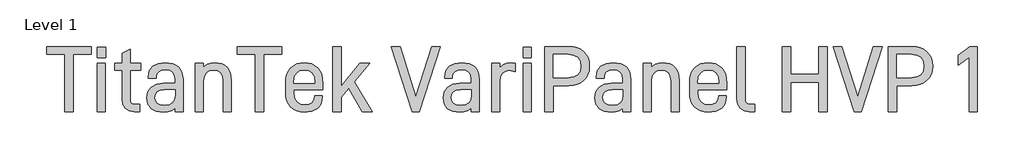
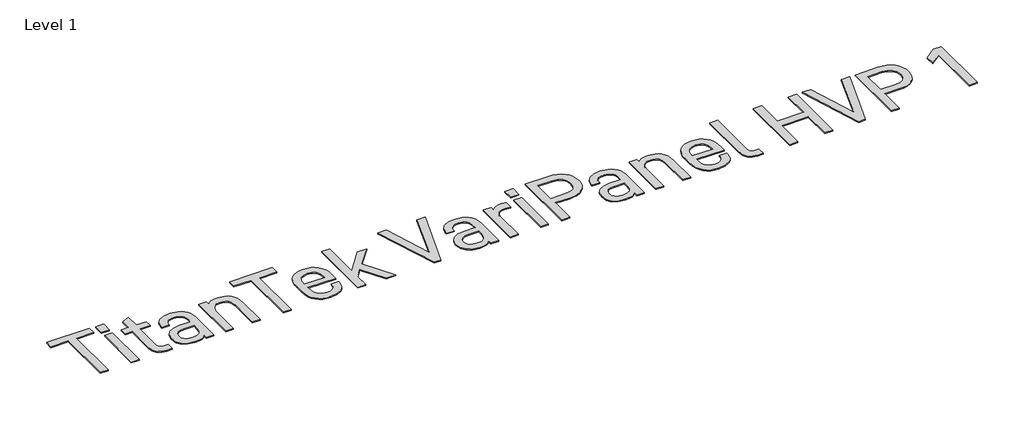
# One storey, part 3 of 9: 1 proxy.
"""IFC4 building model written with IfcOpenShell, lengths in millimetres."""

from ifc_helpers import new_model, si_unit, origin, origin_with_axes, place, context, project, spatial, polyline, outline, extrude, element, save

model = new_model("IFC4")

# Units and contexts
model_context = context("Model", 3, world=origin())
ifc_project = project(units=[si_unit("LENGTHUNIT", "METRE", prefix="MILLI")], contexts=[model_context])

# Site, building, storey
site = spatial("IfcSite", under=ifc_project)
building = spatial("IfcBuilding", under=site)
storey = spatial("IfcBuildingStorey", under=building, Name="Level 1", Elevation=0.0)

# Proxy
placement = place(None, origin())
element("IfcBuildingElementProxy", 1, Name="600mm Arial 2", ObjectType="600mm Arial 2", at=placement, inside=storey, context=model_context, shape_type="SweptSolid", body=[
    extrude(outline(polyline([(-8638.9924556, -7779.5871657), (-8638.9924556, -8047.0126498), (-8678.4439015, -8047.0126498), (-8678.4439015, -7779.5871657), (-8762.8787304, -7779.5871657), (-8762.8787304, -7742.6833224), (-8554.5576267, -7742.6833224), (-8554.5576267, -7779.5871657), (-8638.9924556, -7779.5871657)])), origin_with_axes(), (0.0, 0.0, 1.0), 5.0),
    extrude(outline(polyline([(-8487.1553408, -7746.9778525), (-8487.1553408, -7794.1448949), (-8526.6067867, -7794.1448949), (-8526.6067867, -7746.9778525), (-8487.1553408, -7746.9778525)])), origin_with_axes(), (0.0, 0.0, 1.0), 5.0),
    extrude(outline(polyline([(-8488.0288046, -7821.1494824), (-8488.0288046, -8047.0126498), (-8525.733323, -8047.0126498), (-8525.733323, -7821.1494824), (-8488.0288046, -7821.1494824)])), origin_with_axes(), (0.0, 0.0, 1.0), 5.0),
    extrude(outline(polyline([(-8372.294858, -7987.398749), (-8370.8208879, -7998.4808203), (-8366.3989777, -8006.3965855), (-8359.0291273, -8011.1460446), (-8348.7113368, -8012.7291977), (-8327.2386864, -8012.7291977), (-8327.2386864, -8047.0126498), (-8353.3698101, -8047.0126498), (-8377.1535001, -8043.0456686), (-8395.3688587, -8031.144725), (-8406.6692959, -8012.6018175), (-8410.4361083, -7988.7089446), (-8410.4361083, -7852.8853319), (-8444.2828285, -7852.8853319), (-8444.2828285, -7821.1494824), (-8410.4361083, -7821.1494824), (-8410.4361083, -7773.1089763), (-8372.294858, -7755.1301808), (-8372.294858, -7821.1494824), (-8323.3808881, -7821.1494824), (-8323.3808881, -7852.8853319), (-8372.294858, -7852.8853319), (-8372.294858, -7987.398749)])), origin_with_axes(), (0.0, 0.0, 1.0), 5.0),
    extrude(outline(polyline([(-8146.8684225, -7837.8908709), (-8137.2830677, -7848.6590411), (-8130.4363858, -7861.7473495), (-8124.9590402, -7894.8843804), (-8124.9590402, -8047.0126498), (-8162.2996154, -8047.0126498), (-8162.2996154, -8030.7079931), (-8180.7151427, -8043.1548515), (-8197.7476858, -8047.9589022), (-8217.9829293, -8049.5602524), (-8250.0281305, -8045.2839194), (-8274.1029751, -8032.4549206), (-8289.2248162, -8010.6729184), (-8294.2654299, -7981.4300801), (-8289.1338304, -7953.7885919), (-8273.7390318, -7932.5888988), (-8249.063681, -7919.3777597), (-8217.1094655, -7914.9740466), (-8162.7363472, -7914.9740466), (-8162.7363472, -7894.4476485), (-8165.6296959, -7875.558995), (-8174.3097419, -7861.8383353), (-8188.2305704, -7853.8133871), (-8207.7197302, -7851.1384044), (-8226.2262434, -7853.3948524), (-8239.819523, -7860.1641964), (-8248.1720201, -7870.5183813), (-8250.9561857, -7884.5483927), (-8250.9561857, -7890.1531184), (-8287.8600291, -7890.1531184), (-8287.8600291, -7883.7477176), (-8282.4008807, -7856.7067358), (-8266.0234354, -7835.7072115), (-8240.8203668, -7822.5506638), (-8208.1564621, -7818.1651479), (-8172.6719974, -7823.0965787), (-8158.5600987, -7829.2608671), (-8146.8684225, -7837.8908709)]), holes=[polyline([(-8174.6736851, -8005.4503331), (-8165.7206817, -7990.5468579), (-8162.7363472, -7968.9832216), (-8162.7363472, -7945.0357572), (-8212.8149354, -7945.0357572), (-8231.9538, -7947.2831067), (-8245.6244175, -7954.025155), (-8253.826788, -7965.2619021), (-8256.5609115, -7980.9933482), (-8253.8540837, -7996.9477094), (-8245.7336004, -8008.3436818), (-8232.1994616, -8015.1812652), (-8213.2516673, -8017.4604596), (-8190.104878, -8014.457928), (-8174.6736851, -8005.4503331)])]), origin_with_axes(), (0.0, 0.0, 1.0), 5.0),
    extrude(outline(polyline([(-8030.6977441, -7821.1494824), (-8030.6977441, -7839.5650097), (-8012.2822167, -7826.3174762), (-7995.1222935, -7820.5307789), (-7976.2518372, -7818.6018798), (-7943.9154813, -7824.0610282), (-7930.7907787, -7830.8849637), (-7919.6950595, -7840.4384735), (-7911.0650557, -7852.0209667), (-7904.9007673, -7865.8053165), (-7899.9693365, -7899.9795856), (-7899.9693365, -8047.0126498), (-7937.673855, -8047.0126498), (-7937.673855, -7904.2741157), (-7940.6763866, -7881.8916072), (-7949.6839815, -7866.1328654), (-7964.3781893, -7856.5247642), (-7983.567096, -7853.3220637), (-8002.7378056, -7856.5247642), (-8017.3774219, -7866.1328654), (-8027.0401146, -7882.546705), (-8030.2610122, -7904.2741157), (-8030.2610122, -8047.0126498), (-8067.9655306, -8047.0126498), (-8067.9655306, -7821.1494824), (-8030.6977441, -7821.1494824)])), origin_with_axes(), (0.0, 0.0, 1.0), 5.0),
    extrude(outline(polyline([(-7749.2240514, -7779.5871657), (-7749.2240514, -8047.0126498), (-7788.6754974, -8047.0126498), (-7788.6754974, -7779.5871657), (-7873.1103263, -7779.5871657), (-7873.1103263, -7742.6833224), (-7664.7892225, -7742.6833224), (-7664.7892225, -7779.5871657), (-7749.2240514, -7779.5871657)])), origin_with_axes(), (0.0, 0.0, 1.0), 5.0),
    extrude(outline(polyline([(-7608.5235994, -7952.7513537), (-7605.1025331, -7982.1670651), (-7594.8393341, -8001.1194087), (-7578.3527058, -8011.4099035), (-7556.2613519, -8014.8400684), (-7536.990558, -8012.2742686), (-7522.8513635, -8004.5768694), (-7514.1713175, -7992.8033059), (-7511.2779689, -7977.13555), (-7511.2779689, -7971.6036129), (-7474.3741256, -7971.6036129), (-7474.3741256, -7978.0090137), (-7480.0516399, -8007.1608663), (-7487.1485329, -8019.471246), (-7497.084183, -8030.2712613), (-7523.7976159, -8044.7380046), (-7558.3722226, -8049.5602524), (-7577.3222916, -8048.0612612), (-7594.2843206, -8043.5642877), (-7609.2583098, -8036.0693318), (-7622.2442591, -8025.5763936), (-7632.7371973, -8011.9762901), (-7640.2321532, -7995.1598383), (-7644.7291267, -7975.1270383), (-7646.2281179, -7951.8778899), (-7646.2281179, -7914.1733715), (-7644.7314014, -7891.4678633), (-7640.2412518, -7871.8285769), (-7632.7576691, -7855.2555121), (-7622.2806535, -7841.7486691), (-7609.4971476, -7831.4308786), (-7594.7301511, -7824.0610282), (-7577.979664, -7819.639118), (-7559.2456864, -7818.1651479), (-7540.8438069, -7819.639118), (-7524.2161506, -7824.0610282), (-7509.3627176, -7831.4308786), (-7496.2835079, -7841.7486691), (-7485.9657174, -7855.0917377), (-7478.595867, -7871.610211), (-7474.1739568, -7891.3040889), (-7472.6999867, -7914.1733715), (-7472.6999867, -7944.1622935), (-7608.5235994, -7944.1622935), (-7608.5235994, -7952.7513537)]), holes=[polyline([(-7595.2760659, -7866.5695973), (-7605.2117161, -7884.69397), (-7608.5235994, -7913.2999077), (-7510.4045051, -7913.7366396), (-7510.4045051, -7910.3155733), (-7513.6254027, -7883.0744226), (-7523.2880954, -7865.6961335), (-7538.9012599, -7856.4155812), (-7559.2456864, -7853.3220637), (-7579.60831, -7856.6339471), (-7595.2760659, -7866.5695973)])]), origin_with_axes(), (0.0, 0.0, 1.0), 5.0),
    extrude(outline(polyline([(-7387.391694, -7979.6831526), (-7387.391694, -8047.0126498), (-7425.0962125, -8047.0126498), (-7425.0962125, -7742.6833224), (-7387.391694, -7742.6833224), (-7387.391694, -7929.1678325), (-7299.0990669, -7821.1494824), (-7252.3687564, -7821.1494824), (-7326.5403863, -7908.1319139), (-7241.6688255, -8047.0126498), (-7287.5256722, -8047.0126498), (-7351.7980463, -7937.3201608), (-7387.391694, -7979.6831526)])), origin_with_axes(), (0.0, 0.0, 1.0), 5.0),
    extrude(outline(polyline([(-6964.5624516, -7742.6833224), (-6923.0001349, -7742.6833224), (-7022.4294248, -8047.0126498), (-7054.1652743, -8047.0126498), (-7153.1578324, -7742.6833224), (-7111.5955157, -7742.6833224), (-7037.8606177, -7977.13555), (-6964.5624516, -7742.6833224)])), origin_with_axes(), (0.0, 0.0, 1.0), 5.0),
    extrude(outline(polyline([(-6763.3018464, -7837.8908709), (-6753.7164916, -7848.6590411), (-6746.8698097, -7861.7473495), (-6741.3924641, -7894.8843804), (-6741.3924641, -8047.0126498), (-6778.7330393, -8047.0126498), (-6778.7330393, -8030.7079931), (-6797.1485666, -8043.1548515), (-6814.1811097, -8047.9589022), (-6834.4163532, -8049.5602524), (-6866.4615544, -8045.2839194), (-6890.536399, -8032.4549206), (-6905.6582401, -8010.6729184), (-6910.6988538, -7981.4300801), (-6905.5672543, -7953.7885919), (-6890.1724557, -7932.5888988), (-6865.4971049, -7919.3777597), (-6833.5428894, -7914.9740466), (-6779.1697712, -7914.9740466), (-6779.1697712, -7894.4476485), (-6782.0631198, -7875.558995), (-6790.7431658, -7861.8383353), (-6804.6639943, -7853.8133871), (-6824.1531542, -7851.1384044), (-6842.6596673, -7853.3948524), (-6856.2529469, -7860.1641964), (-6864.605444, -7870.5183813), (-6867.3896097, -7884.5483927), (-6867.3896097, -7890.1531184), (-6904.293453, -7890.1531184), (-6904.293453, -7883.7477176), (-6898.8343046, -7856.7067358), (-6882.4568593, -7835.7072115), (-6857.2537908, -7822.5506638), (-6824.589886, -7818.1651479), (-6789.1054213, -7823.0965787), (-6774.9935226, -7829.2608671), (-6763.3018464, -7837.8908709)]), holes=[polyline([(-6791.107109, -8005.4503331), (-6782.1541056, -7990.5468579), (-6779.1697712, -7968.9832216), (-6779.1697712, -7945.0357572), (-6829.2483594, -7945.0357572), (-6848.3872239, -7947.2831067), (-6862.0578414, -7954.025155), (-6870.2602119, -7965.2619021), (-6872.9943354, -7980.9933482), (-6870.2875076, -7996.9477094), (-6862.1670243, -8008.3436818), (-6848.6328855, -8015.1812652), (-6829.6850912, -8017.4604596), (-6806.5383019, -8014.457928), (-6791.107109, -8005.4503331)])]), origin_with_axes(), (0.0, 0.0, 1.0), 5.0),
    extrude(outline(polyline([(-6594.4321886, -7818.1651479), (-6574.2697337, -7820.2760186), (-6574.2697337, -7859.2907327), (-6600.8375894, -7853.686007), (-6619.1712295, -7857.2253549), (-6633.8472402, -7867.8433985), (-6643.4826371, -7884.2481396), (-6646.6944361, -7905.1475794), (-6646.6944361, -8047.0126498), (-6684.3989546, -8047.0126498), (-6684.3989546, -7821.1494824), (-6647.131168, -7821.1494824), (-6647.131168, -7840.8752053), (-6629.5891044, -7826.6814194), (-6613.4846166, -7820.2942158), (-6594.4321886, -7818.1651479)])), origin_with_axes(), (0.0, 0.0, 1.0), 5.0),
    extrude(outline(polyline([(-6497.9872331, -7746.9778525), (-6497.9872331, -7794.1448949), (-6537.438679, -7794.1448949), (-6537.438679, -7746.9778525), (-6497.9872331, -7746.9778525)])), origin_with_axes(), (0.0, 0.0, 1.0), 5.0),
    extrude(outline(polyline([(-6498.8606969, -7821.1494824), (-6498.8606969, -8047.0126498), (-6536.5652153, -8047.0126498), (-6536.5652153, -7821.1494824), (-6498.8606969, -7821.1494824)])), origin_with_axes(), (0.0, 0.0, 1.0), 5.0),
    extrude(outline(polyline([(-6253.6357497, -7766.7035755), (-6242.2033831, -7780.1603763), (-6234.0374069, -7796.073794), (-6229.1378212, -7814.4438284), (-6227.504626, -7835.2704796), (-6229.1651169, -7854.955259), (-6234.1465899, -7872.4472804), (-6242.4490448, -7887.7465438), (-6254.0724816, -7900.8530493), (-6268.1297888, -7911.3619101), (-6284.6073184, -7918.8682391), (-6303.5050706, -7923.3720366), (-6324.8230452, -7924.8733024), (-6395.5008201, -7924.8733024), (-6395.5008201, -8047.0126498), (-6435.3889979, -8047.0126498), (-6435.3889979, -7742.6833224), (-6324.8230452, -7742.6833224), (-6303.6415493, -7744.1845882), (-6284.7165014, -7748.6883857), (-6268.0479016, -7756.1947147), (-6253.6357497, -7766.7035755)]), holes=[polyline([(-6282.3872648, -7874.7219256), (-6271.141419, -7858.4172689), (-6267.3928038, -7835.2704796), (-6271.250602, -7810.6497202), (-6282.8239966, -7793.2714311), (-6301.8946218, -7783.0082321), (-6327.3706478, -7779.5871657), (-6395.5008201, -7779.5871657), (-6395.5008201, -7887.9694591), (-6327.3706478, -7887.9694591), (-6301.130341, -7884.6575757), (-6282.3872648, -7874.7219256)])]), origin_with_axes(), (0.0, 0.0, 1.0), 5.0),
    extrude(outline(polyline([(-6055.2139018, -7837.8908709), (-6045.628547, -7848.6590411), (-6038.781865, -7861.7473495), (-6033.3045194, -7894.8843804), (-6033.3045194, -8047.0126498), (-6070.6450946, -8047.0126498), (-6070.6450946, -8030.7079931), (-6089.060622, -8043.1548515), (-6106.093165, -8047.9589022), (-6126.3284085, -8049.5602524), (-6158.3736098, -8045.2839194), (-6182.4484543, -8032.4549206), (-6197.5702954, -8010.6729184), (-6202.6109091, -7981.4300801), (-6197.4793096, -7953.7885919), (-6182.0845111, -7932.5888988), (-6157.4091602, -7919.3777597), (-6125.4549448, -7914.9740466), (-6071.0818265, -7914.9740466), (-6071.0818265, -7894.4476485), (-6073.9751752, -7875.558995), (-6082.6552212, -7861.8383353), (-6096.5760496, -7853.8133871), (-6116.0652095, -7851.1384044), (-6134.5717226, -7853.3948524), (-6148.1650022, -7860.1641964), (-6156.5174993, -7870.5183813), (-6159.301665, -7884.5483927), (-6159.301665, -7890.1531184), (-6196.2055083, -7890.1531184), (-6196.2055083, -7883.7477176), (-6190.7463599, -7856.7067358), (-6174.3689146, -7835.7072115), (-6149.1658461, -7822.5506638), (-6116.5019414, -7818.1651479), (-6081.0174766, -7823.0965787), (-6066.905578, -7829.2608671), (-6055.2139018, -7837.8908709)]), holes=[polyline([(-6083.0191644, -8005.4503331), (-6074.066161, -7990.5468579), (-6071.0818265, -7968.9832216), (-6071.0818265, -7945.0357572), (-6121.1604147, -7945.0357572), (-6140.2992792, -7947.2831067), (-6153.9698967, -7954.025155), (-6162.1722672, -7965.2619021), (-6164.9063907, -7980.9933482), (-6162.199563, -7996.9477094), (-6154.0790797, -8008.3436818), (-6140.5449409, -8015.1812652), (-6121.5971466, -8017.4604596), (-6098.4503573, -8014.457928), (-6083.0191644, -8005.4503331)])]), origin_with_axes(), (0.0, 0.0, 1.0), 5.0),
    extrude(outline(polyline([(-5939.0432233, -7821.1494824), (-5939.0432233, -7839.5650097), (-5920.627696, -7826.3174762), (-5903.4677728, -7820.5307789), (-5884.5973164, -7818.6018798), (-5852.2609606, -7824.0610282), (-5839.1362579, -7830.8849637), (-5828.0405387, -7840.4384735), (-5819.410535, -7852.0209667), (-5813.2462465, -7865.8053165), (-5808.3148158, -7899.9795856), (-5808.3148158, -8047.0126498), (-5846.0193342, -8047.0126498), (-5846.0193342, -7904.2741157), (-5849.0218659, -7881.8916072), (-5858.0294607, -7866.1328654), (-5872.7236686, -7856.5247642), (-5891.9125753, -7853.3220637), (-5911.0832848, -7856.5247642), (-5925.7229012, -7866.1328654), (-5935.3855939, -7882.546705), (-5938.6064915, -7904.2741157), (-5938.6064915, -8047.0126498), (-5976.3110099, -8047.0126498), (-5976.3110099, -7821.1494824), (-5939.0432233, -7821.1494824)])), origin_with_axes(), (0.0, 0.0, 1.0), 5.0),
    extrude(outline(polyline([(-5721.8419048, -7952.7513537), (-5718.4208384, -7982.1670651), (-5708.1576394, -8001.1194087), (-5691.6710112, -8011.4099035), (-5669.5796572, -8014.8400684), (-5650.3088633, -8012.2742686), (-5636.1696689, -8004.5768694), (-5627.4896229, -7992.8033059), (-5624.5962742, -7977.13555), (-5624.5962742, -7971.6036129), (-5587.6924309, -7971.6036129), (-5587.6924309, -7978.0090137), (-5593.3699452, -8007.1608663), (-5600.4668382, -8019.471246), (-5610.4024883, -8030.2712613), (-5637.1159213, -8044.7380046), (-5671.6905279, -8049.5602524), (-5690.6405969, -8048.0612612), (-5707.602626, -8043.5642877), (-5722.5766152, -8036.0693318), (-5735.5625645, -8025.5763936), (-5746.0555027, -8011.9762901), (-5753.5504585, -7995.1598383), (-5758.047432, -7975.1270383), (-5759.5464232, -7951.8778899), (-5759.5464232, -7914.1733715), (-5758.0497067, -7891.4678633), (-5753.5595571, -7871.8285769), (-5746.0759745, -7855.2555121), (-5735.5989588, -7841.7486691), (-5722.8154529, -7831.4308786), (-5708.0484564, -7824.0610282), (-5691.2979694, -7819.639118), (-5672.5639917, -7818.1651479), (-5654.1621122, -7819.639118), (-5637.534456, -7824.0610282), (-5622.681023, -7831.4308786), (-5609.6018132, -7841.7486691), (-5599.2840227, -7855.0917377), (-5591.9141723, -7871.610211), (-5587.4922621, -7891.3040889), (-5586.018292, -7914.1733715), (-5586.018292, -7944.1622935), (-5721.8419048, -7944.1622935), (-5721.8419048, -7952.7513537)]), holes=[polyline([(-5708.5943713, -7866.5695973), (-5718.5300214, -7884.69397), (-5721.8419048, -7913.2999077), (-5623.7228105, -7913.7366396), (-5623.7228105, -7910.3155733), (-5626.943708, -7883.0744226), (-5636.6064007, -7865.6961335), (-5652.2195652, -7856.4155812), (-5672.5639917, -7853.3220637), (-5692.9266153, -7856.6339471), (-5708.5943713, -7866.5695973)])]), origin_with_axes(), (0.0, 0.0, 1.0), 5.0),
    extrude(outline(polyline([(-5523.4200568, -8031.144725), (-5534.6659025, -8011.637368), (-5538.4145178, -7985.7246101), (-5538.4145178, -7742.6833224), (-5500.7099994, -7742.6833224), (-5500.7099994, -7983.9776826), (-5499.3270151, -7997.3889906), (-5495.1780623, -8005.887065), (-5488.1903523, -8010.3635667), (-5477.5632101, -8011.8557339), (-5455.7266164, -8011.8557339), (-5455.7266164, -8047.0126498), (-5480.5475445, -8047.0126498), (-5505.4230642, -8043.0456686), (-5523.4200568, -8031.144725)])), origin_with_axes(), (0.0, 0.0, 1.0), 5.0),
    extrude(outline(polyline([(-5117.1138369, -8047.0126498), (-5156.9292261, -8047.0126498), (-5156.9292261, -7909.8788414), (-5286.7841699, -7909.8788414), (-5286.7841699, -8047.0126498), (-5326.6723477, -8047.0126498), (-5326.6723477, -7742.6833224), (-5286.7841699, -7742.6833224), (-5286.7841699, -7872.9749981), (-5156.9292261, -7872.9749981), (-5156.9292261, -7742.6833224), (-5117.1138369, -7742.6833224), (-5117.1138369, -8047.0126498)])), origin_with_axes(), (0.0, 0.0, 1.0), 5.0),
    extrude(outline(polyline([(-4900.8587707, -7742.6833224), (-4859.2964541, -7742.6833224), (-4958.725744, -8047.0126498), (-4990.4615935, -8047.0126498), (-5089.4541516, -7742.6833224), (-5047.8918349, -7742.6833224), (-4974.1569369, -7977.13555), (-4900.8587707, -7742.6833224)])), origin_with_axes(), (0.0, 0.0, 1.0), 5.0),
    extrude(outline(polyline([(-4651.1209276, -7766.7035755), (-4639.6885609, -7780.1603763), (-4631.5225848, -7796.073794), (-4626.6229991, -7814.4438284), (-4624.9898038, -7835.2704796), (-4626.6502948, -7854.955259), (-4631.6317677, -7872.4472804), (-4639.9342226, -7887.7465438), (-4651.5576595, -7900.8530493), (-4665.6149667, -7911.3619101), (-4682.0924963, -7918.8682391), (-4700.9902484, -7923.3720366), (-4722.308223, -7924.8733024), (-4792.9859979, -7924.8733024), (-4792.9859979, -8047.0126498), (-4832.8741757, -8047.0126498), (-4832.8741757, -7742.6833224), (-4722.308223, -7742.6833224), (-4701.1267271, -7744.1845882), (-4682.2016793, -7748.6883857), (-4665.5330794, -7756.1947147), (-4651.1209276, -7766.7035755)]), holes=[polyline([(-4679.8724426, -7874.7219256), (-4668.6265969, -7858.4172689), (-4664.8779816, -7835.2704796), (-4668.7357798, -7810.6497202), (-4680.3091745, -7793.2714311), (-4699.3797996, -7783.0082321), (-4724.8558256, -7779.5871657), (-4792.9859979, -7779.5871657), (-4792.9859979, -7887.9694591), (-4724.8558256, -7887.9694591), (-4698.6155189, -7884.6575757), (-4679.8724426, -7874.7219256)])]), origin_with_axes(), (0.0, 0.0, 1.0), 5.0),
    extrude(outline(polyline([(-4505.616425, -7829.7385426), (-4505.616425, -7783.8816958), (-4452.0439818, -7742.6833224), (-4415.2129271, -7742.6833224), (-4415.2129271, -8047.0126498), (-4454.664373, -8047.0126498), (-4454.664373, -7791.5972923), (-4505.616425, -7829.7385426)])), origin_with_axes(), (0.0, 0.0, 1.0), 5.0),
])

save(model, "model.ifc")
